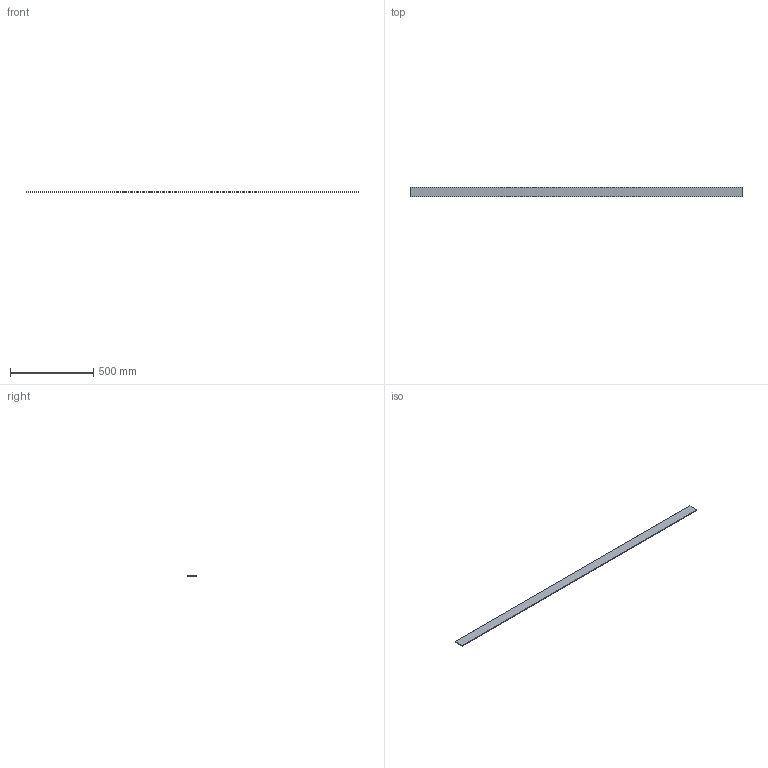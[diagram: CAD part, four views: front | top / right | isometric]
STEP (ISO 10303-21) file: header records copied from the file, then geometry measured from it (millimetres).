
FILE_DESCRIPTION (( 'STEP AP214' ), '1' );
FILE_NAME ('04536.STEP', '2014-03-17T12:17:46', ( '' ), ( '' ), 'SwSTEP 2.0', 'SolidWorks 2013', '' );
FILE_SCHEMA (( 'AUTOMOTIVE_DESIGN' ));
Length unit declared in the file: millimetre
Products named in the file (1): 04536
Bounding box: 2000 x 60 x 5 mm (x, y, z)
Volume: 599892.7 mm3; surface area: 259741.5 mm2
Topology: 1 solids, 1 shells, 10 faces, 24 edges, 16 vertices
Faces by surface type: plane 6, cylinder 4
Entity records: 330 total; most frequent: DIRECTION 54, CARTESIAN_POINT 51, ORIENTED_EDGE 48, EDGE_CURVE 24, AXIS2_PLACEMENT_3D 19, LINE 16, VECTOR 16, VERTEX_POINT 16
